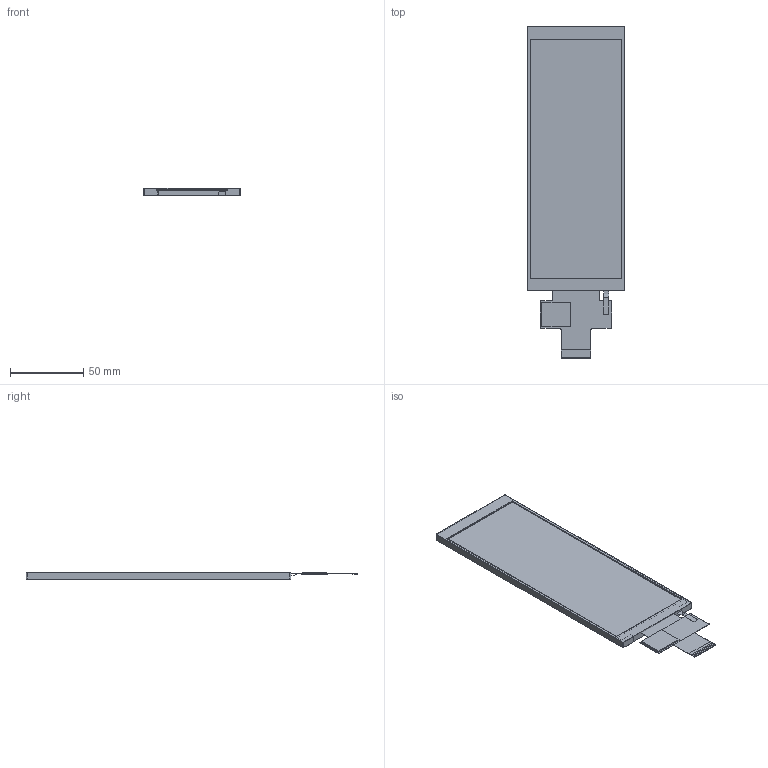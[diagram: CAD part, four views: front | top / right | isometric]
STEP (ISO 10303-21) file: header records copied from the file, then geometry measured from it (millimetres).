
FILE_DESCRIPTION (( 'STEP AP203' ), '1' );
FILE_NAME ('NHD-6.8-4801280AF-ASXP.STEP', '2026-02-17T14:24:05', ( '' ), ( '' ), 'SwSTEP 2.0', 'SolidWorks 2019', '' );
FILE_SCHEMA (( 'CONFIG_CONTROL_DESIGN' ));
Length unit declared in the file: millimetre
Products named in the file (1): NHD-6.8-4801280AF-ASXP
Bounding box: 66.8 x 227.1 x 4.89 mm (x, y, z)
Volume: 55130.1 mm3; surface area: 60399.5 mm2
Topology: 45 solids, 45 shells, 456 faces, 1080 edges, 720 vertices
Faces by surface type: plane 430, cylinder 26
Entity records: 12901 total; most frequent: CARTESIAN_POINT 2289, ORIENTED_EDGE 2160, DIRECTION 2034, EDGE_CURVE 1080, VECTOR 1024, LINE 1024, VERTEX_POINT 720, AXIS2_PLACEMENT_3D 505
